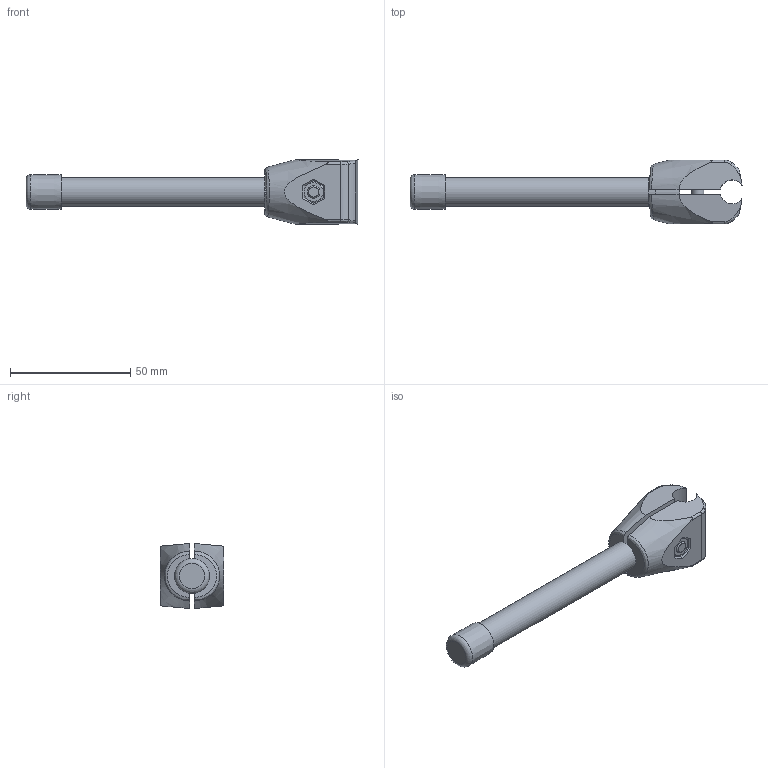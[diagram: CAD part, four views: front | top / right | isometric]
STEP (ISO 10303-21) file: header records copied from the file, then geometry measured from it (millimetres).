
FILE_DESCRIPTION (( 'STEP AP214' ), '1' );
FILE_NAME ('AF710CC.STEP', '2021-05-19T13:55:03', ( '' ), ( '' ), 'SwSTEP 2.0', 'SolidWorks 2018', '' );
FILE_SCHEMA (( 'AUTOMOTIVE_DESIGN' ));
Length unit declared in the file: millimetre
Products named in the file (1): AF710CC
Bounding box: 138.12 x 26.4 x 27 mm (x, y, z)
Volume: 30905.5 mm3; surface area: 13350.4 mm2
Topology: 6 solids, 6 shells, 118 faces, 266 edges, 166 vertices
Faces by surface type: plane 72, cylinder 23, bspline 16, cone 6, torus 1
Full cylindrical faces by diameter (mm): 5.2 x4, 7.8 x1, 9.5 x1, 12 x3
Entity records: 5571 total; most frequent: CARTESIAN_POINT 2201, ORIENTED_EDGE 482, DIRECTION 428, EDGE_CURVE 241, VERTEX_POINT 161, EDGE_LOOP 150, AXIS2_PLACEMENT_3D 148, VECTOR 132
